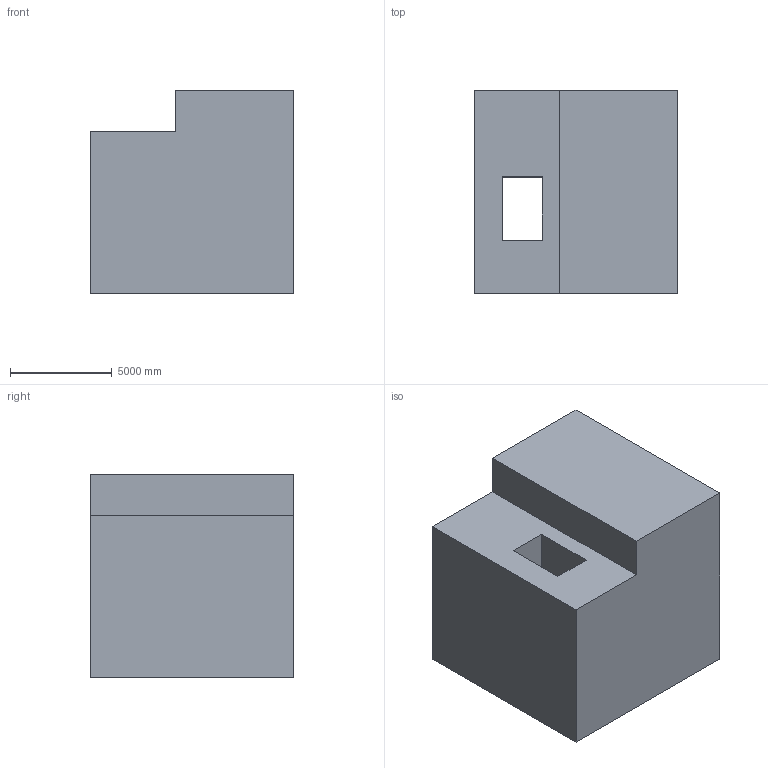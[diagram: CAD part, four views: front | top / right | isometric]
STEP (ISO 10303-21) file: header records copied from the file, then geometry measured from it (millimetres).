
FILE_DESCRIPTION (( 'STEP AP203' ), '1' );
FILE_NAME ('1200.STEP', '2022-08-18T13:09:22', ( 'user' ), ( '' ), 'SwSTEP 2.0', 'SolidWorks 2021', '' );
FILE_SCHEMA (( 'CONFIG_CONTROL_DESIGN' ));
Length unit declared in the file: centimetre
Products named in the file (1): 1200
Bounding box: 10000 x 10000 x 10000 mm (x, y, z)
Volume: 831593561138.1 mm3; surface area: 644431684 mm2
Topology: 1 solids, 1 shells, 14 faces, 36 edges, 24 vertices
Faces by surface type: plane 13, cylinder 1
Entity records: 503 total; most frequent: CARTESIAN_POINT 75, ORIENTED_EDGE 72, DIRECTION 68, EDGE_CURVE 36, LINE 34, VECTOR 34, VERTEX_POINT 24, AXIS2_PLACEMENT_3D 17
